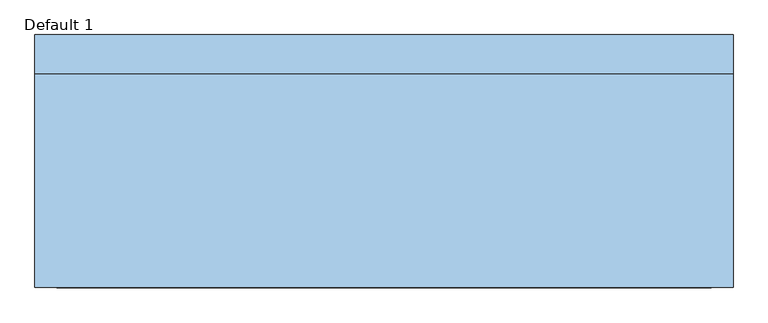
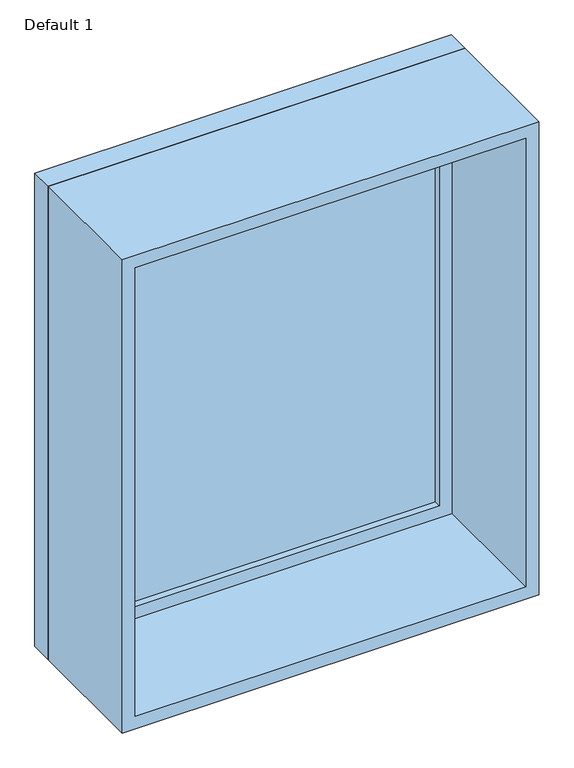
"""IFC4 building model written with IfcOpenShell, lengths in millimetres: window geometry, Planitar-Fixed : Default 1."""

from ifc_helpers import new_model, si_unit, frame, origin, place, context, project, spatial, polyline, outline, extrude, source, transform, mapped, element, save


def default_1_cb71ed48(model_context):
    return source(origin(), model_context, "Body", "SweptSolid", [
        extrude(outline(polyline([(2114.6, -489.0), (933.4, -489.0), (933.4, 489.0), (2114.6, 489.0), (2114.6, -489.0)]), holes=[polyline([(2070.6, -445.0), (2070.6, 445.0), (977.4, 445.0), (977.4, -445.0), (2070.6, -445.0)])]), frame((0.0, 140.45, 0.0), z_axis=(0.0, 1.0, 0.0), x_axis=(0.0, 0.0, 1.0)), (0.0, 0.0, 1.0), 44.0),
        extrude(outline(polyline([(2133.6, -508.0), (914.4, -508.0), (914.4, 508.0), (2133.6, 508.0), (2133.6, -508.0)]), holes=[polyline([(2114.6, -489.0), (2114.6, 489.0), (933.4, 489.0), (933.4, -489.0), (2114.6, -489.0)])]), frame((0.0, 140.45, 0.0), z_axis=(0.0, 1.0, 0.0), x_axis=(0.0, 0.0, 1.0)), (0.0, 0.0, 1.0), 56.7),
        extrude(outline(polyline([(2133.6, -508.0), (914.4, -508.0), (914.4, 508.0), (2133.6, 508.0), (2133.6, -508.0)]), holes=[polyline([(2101.6, -476.0), (2101.6, 476.0), (946.4, 476.0), (946.4, -476.0), (2101.6, -476.0)])]), frame((0.0, -171.15, 0.0), z_axis=(0.0, 1.0, 0.0), x_axis=(0.0, 0.0, 1.0)), (0.0, 0.0, 1.0), 311.6),
        extrude(outline(polyline([(-445.0, 168.45), (445.0, 168.45), (445.0, 156.45), (-445.0, 156.45), (-445.0, 168.45)])), frame((0.0, 0.0, 977.4), z_axis=(0.0, 0.0, 1.0), x_axis=(1.0, 0.0, 0.0)), (0.0, 0.0, 1.0), 1093.2),
    ])


if __name__ == "__main__":
    model = new_model("IFC4")
    model_context = context("Model", 3, world=origin())
    ifc_project = project(units=[si_unit("LENGTHUNIT", "METRE", prefix="MILLI")], contexts=[model_context])
    site = spatial("IfcSite", under=ifc_project)
    building = spatial("IfcBuilding", under=site)
    placement = place(None, origin())
    default_1_shape = default_1_cb71ed48(model_context)
    element("IfcWindow", 1, ObjectType="Planitar-Fixed : Default 1", at=placement, inside=building, context=model_context, shape_type="MappedRepresentation", body=[
        mapped(default_1_shape, transform((0.0, 0.0, 0.0), x_axis=(1.0, 0.0, 0.0), y_axis=(0.0, 1.0, 0.0), z_axis=(0.0, 0.0, 1.0))),
    ])
    save(model, "model.ifc")
